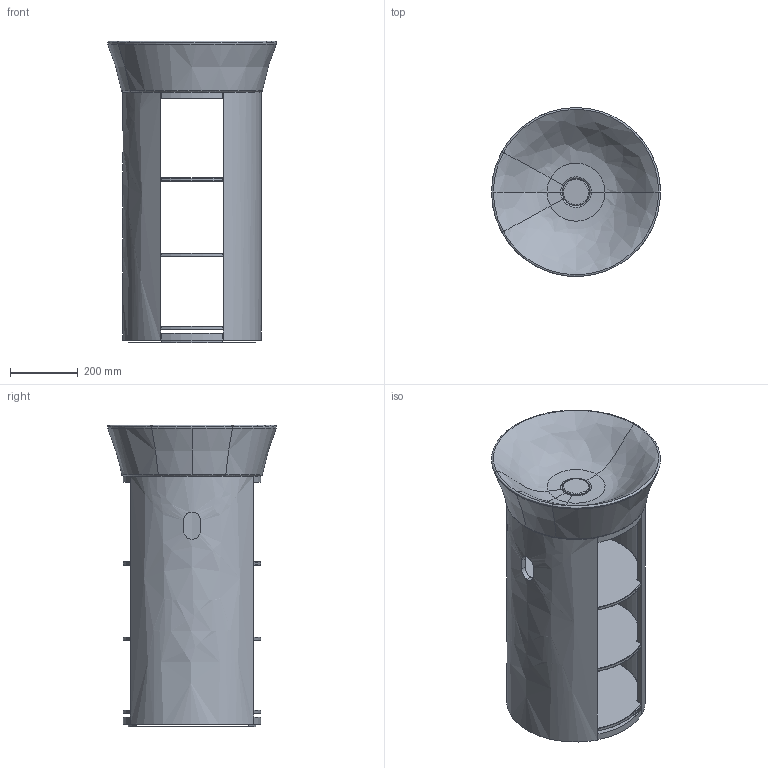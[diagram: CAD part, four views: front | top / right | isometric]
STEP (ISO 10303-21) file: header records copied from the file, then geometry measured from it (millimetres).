
FILE_DESCRIPTION(/* description */ (''),/* implementation_level */ '2;1');
FILE_NAME(/* name */ '236550_nur mit WT4239',/* time_stamp */ '2021-06-21T15:59:57+02:00',/* author */ (''),/* organization */ (''),/* preprocessor_version */ 'ST-DEVELOPER v15',/* originating_system */ '',/* authorisation */ '');
FILE_SCHEMA (('AUTOMOTIVE_DESIGN'));
Length unit declared in the file: millimetre
Products named in the file (1): Document
Bounding box: 500 x 499.71 x 892.28 mm (x, y, z)
Volume: 24030484.1 mm3; surface area: 2967825.4 mm2
Topology: 8 solids, 10 shells, 421 faces, 957 edges, 543 vertices
Faces by surface type: bspline 365, plane 56
Entity records: 31663 total; most frequent: CARTESIAN_POINT 26213, ORIENTED_EDGE 1845, EDGE_CURVE 941, VERTEX_POINT 543, B_SPLINE_CURVE_WITH_KNOTS 495, EDGE_LOOP 433, ADVANCED_FACE 421, FACE_OUTER_BOUND 421
